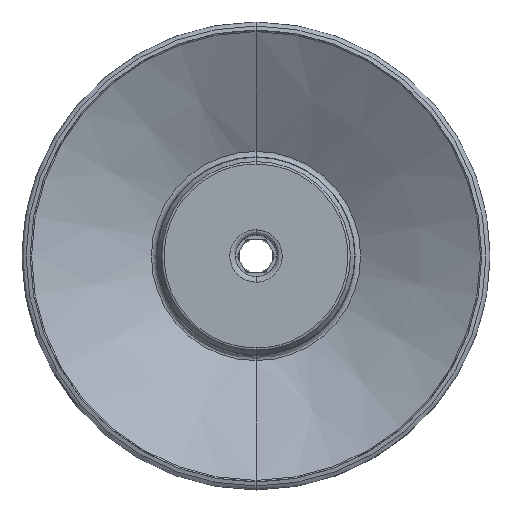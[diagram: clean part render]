
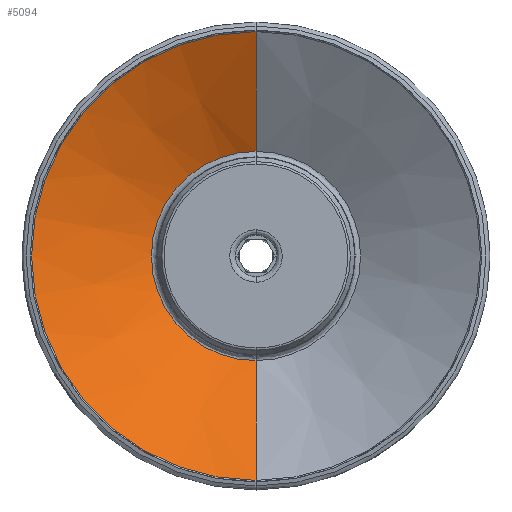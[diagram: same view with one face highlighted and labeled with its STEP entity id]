
A CAD part, front view. The second image highlights one B-rep face of the part: STEP entity #5094.
In plain terms, the highlighted conical face has half-angle 61.475 degrees and reference radius 40.75 mm.
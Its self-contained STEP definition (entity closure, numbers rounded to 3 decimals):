
#298 = CARTESIAN_POINT ( 'NONE',  ( 0., -40.691, -40.75 ) ) ;
#492 = CONICAL_SURFACE ( 'NONE', #13686, 40.75, 1.073 ) ;
#835 = CARTESIAN_POINT ( 'NONE',  ( 0., -40.691, 0. ) ) ;
#1207 = DIRECTION ( 'NONE',  ( 0., -0.478, -0.879 ) ) ;
#1385 = VERTEX_POINT ( 'NONE', #2338 ) ;
#1415 = CIRCLE ( 'NONE', #7185, 40.75 ) ;
#1508 = VERTEX_POINT ( 'NONE', #4551 ) ;
#2009 = DIRECTION ( 'NONE',  ( 0., 0., -1. ) ) ;
#2085 = VERTEX_POINT ( 'NONE', #2779 ) ;
#2338 = CARTESIAN_POINT ( 'NONE',  ( 0., -28.87, 19. ) ) ;
#2779 = CARTESIAN_POINT ( 'NONE',  ( 0., -28.87, -19. ) ) ;
#3345 = ORIENTED_EDGE ( 'NONE', *, *, #5714, .F. ) ;
#4479 = EDGE_LOOP ( 'NONE', ( #14027, #9952, #4694, #3345 ) ) ;
#4541 = CARTESIAN_POINT ( 'NONE',  ( 0., -40.691, 40.75 ) ) ;
#4551 = CARTESIAN_POINT ( 'NONE',  ( 0., -40.691, 40.75 ) ) ;
#4694 = ORIENTED_EDGE ( 'NONE', *, *, #5273, .F. ) ;
#5094 = ADVANCED_FACE ( 'NONE', ( #11298 ), #492, .F. ) ;
#5156 = CIRCLE ( 'NONE', #8314, 19. ) ;
#5273 = EDGE_CURVE ( 'NONE', #9416, #1508, #1415, .T. ) ;
#5357 = EDGE_CURVE ( 'NONE', #1385, #1508, #15193, .T. ) ;
#5423 = DIRECTION ( 'NONE',  ( 0., 0., -1. ) ) ;
#5714 = EDGE_CURVE ( 'NONE', #2085, #9416, #13336, .T. ) ;
#5738 = DIRECTION ( 'NONE',  ( 0., -0.478, 0.879 ) ) ;
#5752 = CARTESIAN_POINT ( 'NONE',  ( 0., -28.87, 0. ) ) ;
#6915 = DIRECTION ( 'NONE',  ( 0., 0., -1. ) ) ;
#7153 = VECTOR ( 'NONE', #1207, 1000. ) ;
#7185 = AXIS2_PLACEMENT_3D ( 'NONE', #835, #9034, #2009 ) ;
#8258 = CARTESIAN_POINT ( 'NONE',  ( 0., -40.691, -40.75 ) ) ;
#8314 = AXIS2_PLACEMENT_3D ( 'NONE', #5752, #13893, #6915 ) ;
#8908 = VECTOR ( 'NONE', #5738, 1000. ) ;
#9034 = DIRECTION ( 'NONE',  ( 0., 1., 0. ) ) ;
#9416 = VERTEX_POINT ( 'NONE', #298 ) ;
#9952 = ORIENTED_EDGE ( 'NONE', *, *, #5357, .T. ) ;
#10569 = DIRECTION ( 'NONE',  ( 0., -1., 0. ) ) ;
#11298 = FACE_OUTER_BOUND ( 'NONE', #4479, .T. ) ;
#12917 = CARTESIAN_POINT ( 'NONE',  ( 0., -40.691, 0. ) ) ;
#13336 = LINE ( 'NONE', #8258, #7153 ) ;
#13686 = AXIS2_PLACEMENT_3D ( 'NONE', #12917, #10569, #5423 ) ;
#13859 = EDGE_CURVE ( 'NONE', #1385, #2085, #5156, .T. ) ;
#13893 = DIRECTION ( 'NONE',  ( 0., -1., 0. ) ) ;
#14027 = ORIENTED_EDGE ( 'NONE', *, *, #13859, .F. ) ;
#15193 = LINE ( 'NONE', #4541, #8908 ) ;
